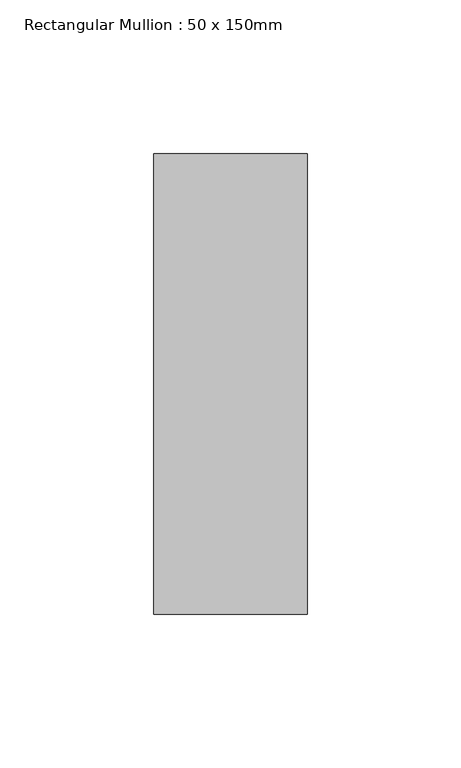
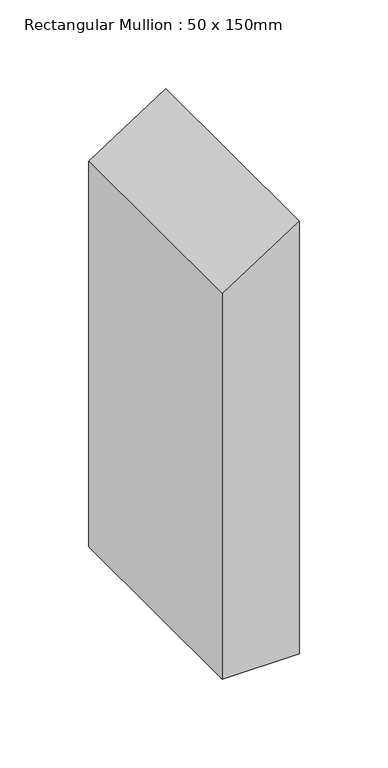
"""IFC4 building model written with IfcOpenShell, lengths in millimetres: member geometry, Rectangular Mullion : 50 x 150mm."""

from ifc_helpers import new_model, si_unit, frame, origin, place, context, project, spatial, polyline, outline, extrude, source, transform, mapped, element, save


def rectangular_mullion_50_x_150mm_4c4a6072(model_context):
    return source(origin(), model_context, "Body", "SweptSolid", [
        extrude(outline(polyline([(-43.3780246, 25.0), (-75.7358326, -25.0), (-340.4092459, -25.0), (-340.4092459, 25.0), (-43.3780246, 25.0)])), frame((0.0, -75.0, 0.0), z_axis=(0.0, 1.0, 0.0), x_axis=(0.0, 0.0, 1.0)), (0.0, 0.0, 1.0), 150.0),
    ])


if __name__ == "__main__":
    model = new_model("IFC4")
    model_context = context("Model", 3, world=origin())
    ifc_project = project(units=[si_unit("LENGTHUNIT", "METRE", prefix="MILLI")], contexts=[model_context])
    site = spatial("IfcSite", under=ifc_project)
    building = spatial("IfcBuilding", under=site)
    placement = place(None, origin())
    rectangular_mullion_50_x_150mm_shape = rectangular_mullion_50_x_150mm_4c4a6072(model_context)
    element("IfcMember", 1, ObjectType="Rectangular Mullion : 50 x 150mm", at=placement, inside=building, context=model_context, shape_type="MappedRepresentation", body=[
        mapped(rectangular_mullion_50_x_150mm_shape, transform((0.0, 0.0, 0.0), x_axis=(1.0, 0.0, 0.0), y_axis=(0.0, 1.0, 0.0), z_axis=(0.0, 0.0, 1.0))),
    ])
    save(model, "model.ifc")
